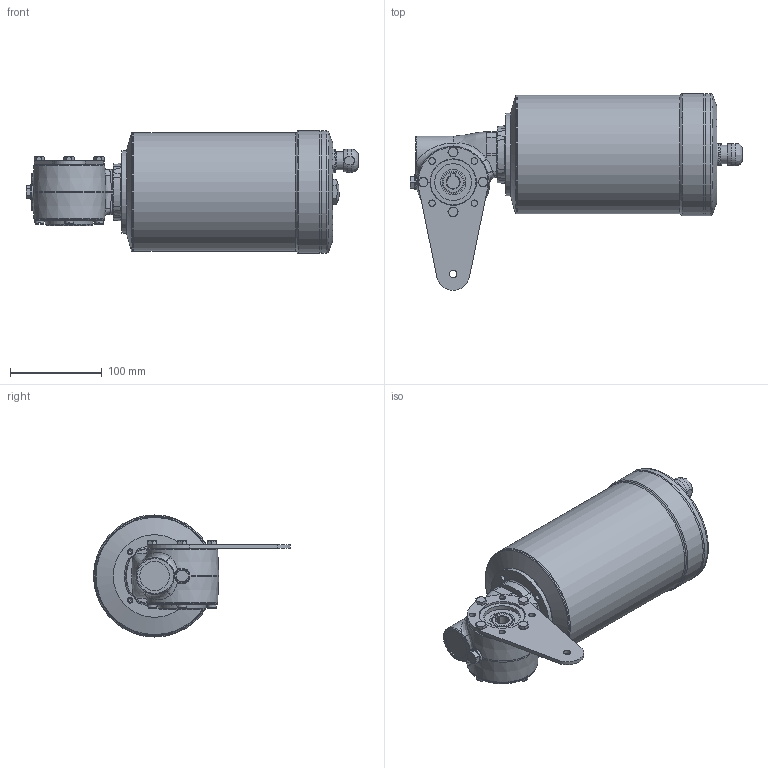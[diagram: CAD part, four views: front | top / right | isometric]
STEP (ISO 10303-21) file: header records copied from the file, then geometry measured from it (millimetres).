
FILE_DESCRIPTION( ( 'Unknown' ), '1' );
FILE_NAME( 'E:/services/configuratordownloads/customers/CLEANGEARTECH/VFN/download/6A966A166DF72B21528ADDA6CBCB2EE/STEP/6A966A166DF72B21528ADDA6CBCB2EE.3d.stp', 'Unknown', ( 'Unknown' ), ( 'Unknown' ), 'PSStep 10.1', 'Unknown', ' ' );
FILE_SCHEMA( ( 'AUTOMOTIVE_DESIGN { 1 0 10303 214 1 1 1 1 }' ) );
Length unit declared in the file: millimetre
Products named in the file (1): N308800
Bounding box: 361.5 x 214.5 x 133 mm (x, y, z)
Volume: 3365901.8 mm3; surface area: 184973.2 mm2
Topology: 1 solids, 23 shells, 542 faces, 1269 edges, 815 vertices
Faces by surface type: plane 207, cylinder 129, cone 109, torus 53, bspline 43, sphere 1
Full cylindrical faces by diameter (mm): 3.242 x2, 4.134 x8, 4.917 x12, 6 x12, 6.5 x4, 7 x9, 8.2 x1, 8.9 x4, 10 x4, 11 x5, 13.4 x1, 16.662 x1, 17 x2, 20 x2, 27.5 x2, 30 x1, 32 x1, 40 x1, 47 x1, 50 x2, 50.5 x1, 52 x1, 60 x1, 76 x1, 90 x1, 128.98 x1, 129 x2, 132.98 x2, 133 x3
Entity records: 23319 total; most frequent: CARTESIAN_POINT 8254, DIRECTION 2183, ORIENTED_EDGE 1948, EDGE_CURVE 974, AXIS2_PLACEMENT_3D 958, EDGE_LOOP 791, VERTEX_POINT 716, FACE_OUTER_BOUND 661
